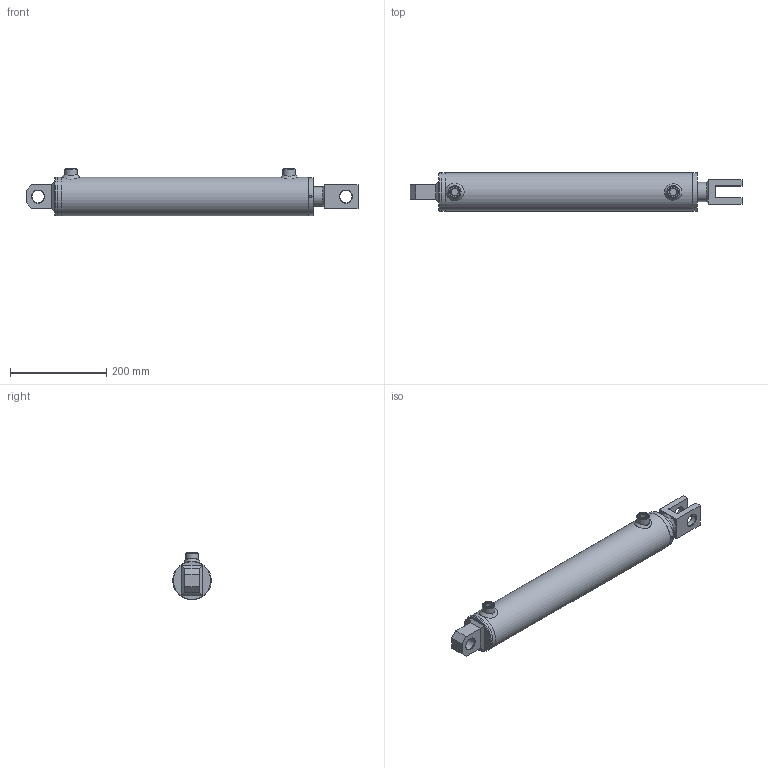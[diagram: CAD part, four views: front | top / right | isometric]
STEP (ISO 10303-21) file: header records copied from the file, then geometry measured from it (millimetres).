
FILE_DESCRIPTION( ( 'Unknown' ), '1' );
FILE_NAME( 'E:/LIBRERIA_3d/CILINDRI/HM5/HM54400400.stp', 'Unknown', ( 'Unknown' ), ( 'Unknown' ), 'PSStep 17.0.49', 'Unknown', ' ' );
FILE_SCHEMA( ( 'AUTOMOTIVE_DESIGN { 1 0 10303 214 1 1 1 1 }' ) );
Length unit declared in the file: millimetre
Products named in the file (28): CG08007040; CT00070027; STL4500400-oa7; Saldatura d'angolo 1-oa5; FTM4500400-oa6; CBSC220600; HM04400400; Saldatura con preparazione 1-oa3; Saldatura d'angolo 1-oa4; CF00070080; CBS0600000; CDB0002720; APG0600000; SBL4040400; Assem1; CFS0000025; COF2500000; Saldatura con preparazione 1-oa0; Saldatura d'angolo 1-oa1; Saldatura d'angolo 2-oa2
Assembly tree (20 placements, depth 4):
  Saldatura d'angolo 1-oa5
  Saldatura d'angolo 1-oa5
  Saldatura d'angolo 1-oa4
  Saldatura d'angolo 1-oa4
  Assem1
    CFS0000025
    COF2500000
    Saldatura con preparazione 1-oa0
    Saldatura con preparazione 1-oa0
    HM04400400
      Saldatura con preparazione 1-oa3
      Saldatura con preparazione 1-oa3
      CF00070080
      CBS0600000
      CDB0002720
      APG0600000  x2
      SBL4040400
      CG08007040
        CG08007040
      CT00070027
        CT00070027
      STL4500400-oa7
        FTM4500400-oa6
        CBSC220600
Bounding box: 690 x 80 x 99 mm (x, y, z)
Volume: 1754498.5 mm3; surface area: 461088.7 mm2
Topology: 24 solids, 24 shells, 259 faces, 546 edges, 342 vertices
Faces by surface type: plane 98, cylinder 66, cone 46, torus 37, bspline 12
Full cylindrical faces by diameter (mm): 4.25 x3, 5 x2, 6 x2, 7 x2, 14.95 x2, 16 x2, 16.6 x2, 22 x2, 25.25 x3, 26 x2, 26.4 x1, 27 x5, 33.2 x1, 35 x2, 40 x6, 41 x1, 42 x1, 43 x1, 48.6 x1, 50 x2, 64.18 x2, 65 x1, 68.34 x2, 69.9 x1, 70 x1, 70.3 x1, 70.5 x1, 70.6 x1, 71 x1, 72 x3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
Entity records: 11362 total; most frequent: CARTESIAN_POINT 4536, DIRECTION 1032, ORIENTED_EDGE 642, AXIS2_PLACEMENT_3D 462, EDGE_LOOP 452, FACE_OUTER_BOUND 356, EDGE_CURVE 321, VERTEX_POINT 282
